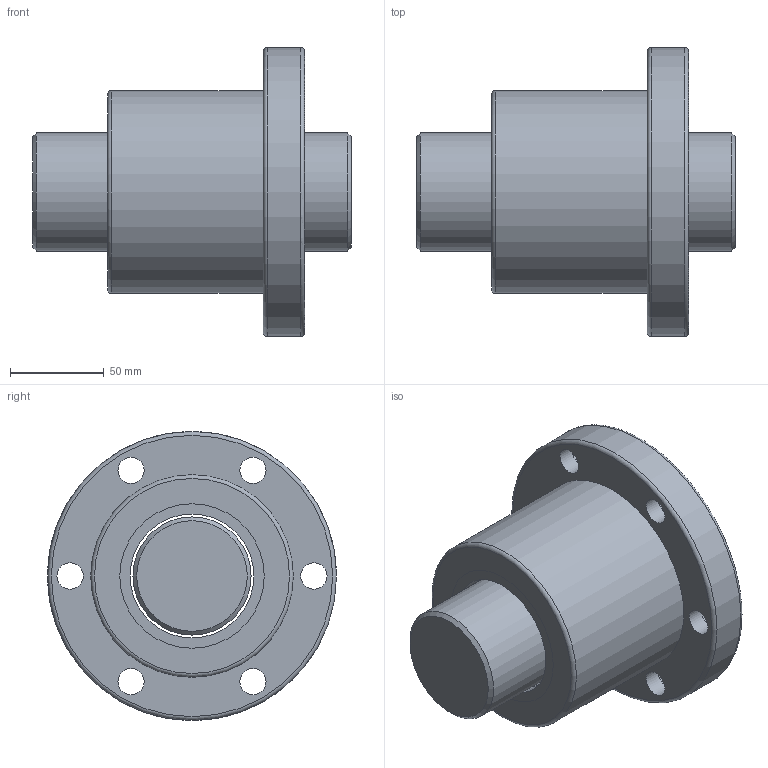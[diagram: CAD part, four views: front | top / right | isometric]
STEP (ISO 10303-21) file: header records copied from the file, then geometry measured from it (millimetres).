
FILE_DESCRIPTION(/* description */ (''),/* implementation_level */ '2;1');
FILE_NAME(/* name */ 'SFT6310',/* time_stamp */ '2007-10-26T11:15:11+08:00',/* author */ (''),/* organization */ (''),/* preprocessor_version */ 'ST-DEVELOPER v9',/* originating_system */ 'EDS PLM SOLUTIONS - UNIGRAPHICS NX 1.0',/* authorisation */ '');
FILE_SCHEMA (('CONFIG_CONTROL_DESIGN'));
Length unit declared in the file: millimetre
Products named in the file (1): FANNDA0400dp
Bounding box: 170 x 154 x 154 mm (x, y, z)
Volume: 1306136.1 mm3; surface area: 147377.7 mm2
Topology: 4 solids, 4 shells, 44 faces, 92 edges, 59 vertices
Faces by surface type: cylinder 22, plane 17, torus 3, cone 2
Full cylindrical faces by diameter (mm): 14 x6, 20 x6, 63 x1, 66 x3, 77 x4, 108 x1, 154 x1
Entity records: 1076 total; most frequent: DIRECTION 198, CARTESIAN_POINT 147, ORIENTED_EDGE 108, AXIS2_PLACEMENT_3D 99, EDGE_LOOP 92, FACE_BOUND 73, EDGE_CURVE 54, CIRCLE 54
